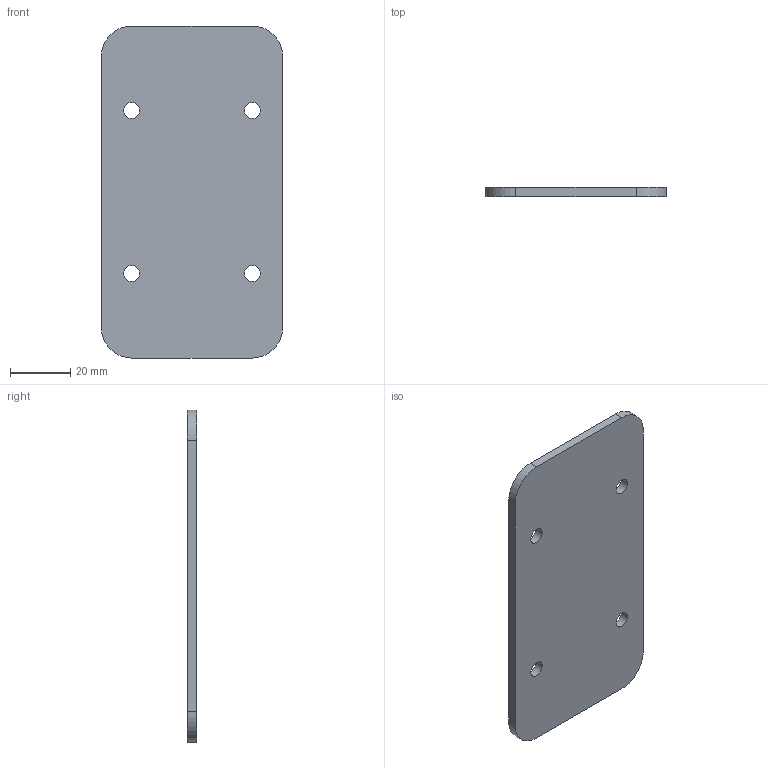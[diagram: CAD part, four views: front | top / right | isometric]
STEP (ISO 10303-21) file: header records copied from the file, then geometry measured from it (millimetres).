
FILE_DESCRIPTION((''),'2;1');
FILE_NAME('0000187213','2024-01-01T18:39:39',('Wyndorps'),(''),'CREO PARAMETRIC BY PTC INC, 2022484','CREO PARAMETRIC BY PTC INC, 2022484','');
FILE_SCHEMA(('CONFIG_CONTROL_DESIGN'));
Length unit declared in the file: millimetre
Products named in the file (1): 0000187213
Bounding box: 60 x 3 x 110 mm (x, y, z)
Volume: 19277.7 mm3; surface area: 14020.1 mm2
Topology: 1 solids, 1 shells, 18 faces, 48 edges, 32 vertices
Faces by surface type: cylinder 12, plane 6
Entity records: 630 total; most frequent: DIRECTION 108, CARTESIAN_POINT 98, ORIENTED_EDGE 96, EDGE_CURVE 48, AXIS2_PLACEMENT_3D 42, VERTEX_POINT 32, EDGE_LOOP 26, VECTOR 24
